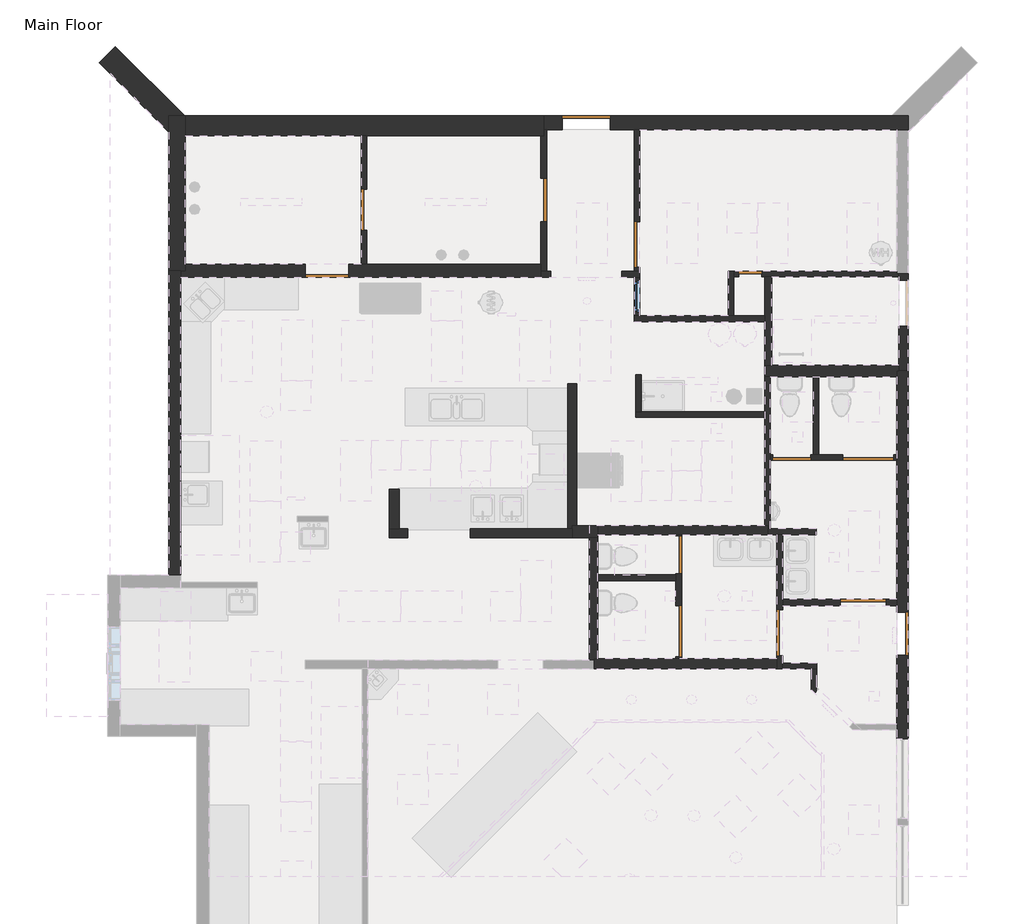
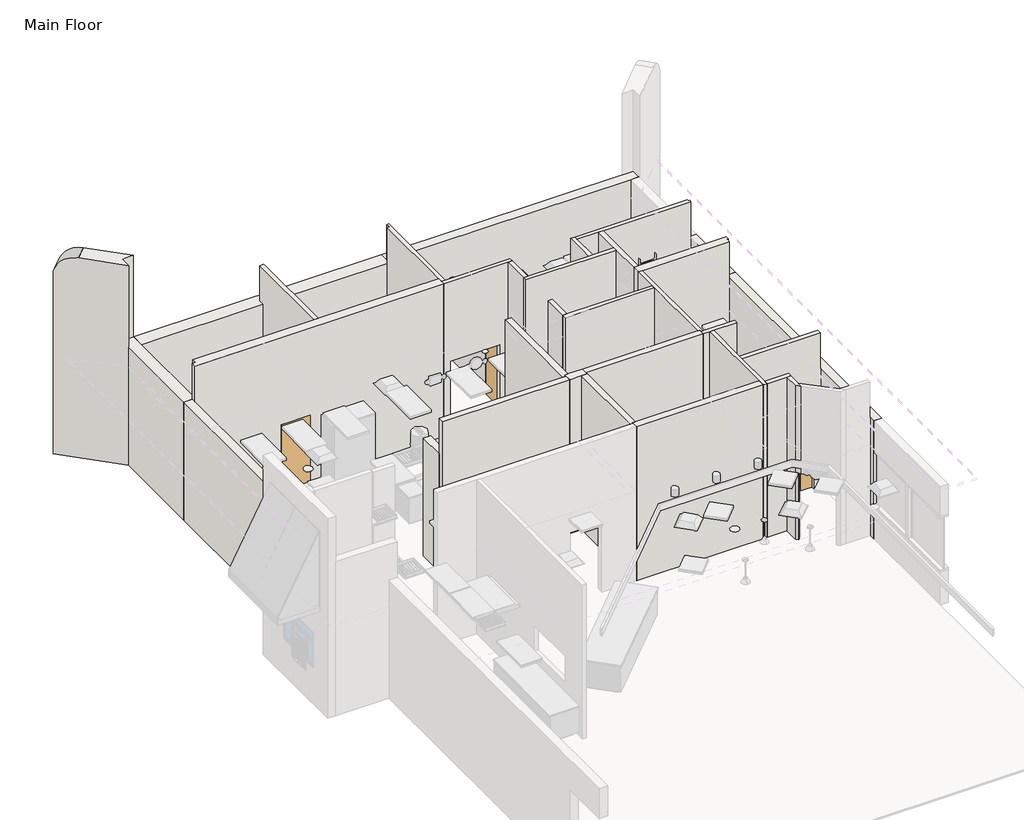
# One storey, part 3 of 6: 37 walls, 13 doors, 1 window.
"""IFC4 building model written with IfcOpenShell, lengths in millimetres."""

from ifc_helpers import new_model, si_unit, frame, origin, origin_with_axes, place, context, project, spatial, polyline, circle_curve, outline, extrude, faceted_brep, transform, mapped, element, save
from ifc_brep_helpers import plane_surface, cylinder_surface, advanced_brep
from components import door_06143b9a, door_8c30df6c, door_9f4ae598, door_f7e807fb, door_aa45f35f, door_f61abd0f, door_46b09886, door_9f601fca, door_848fc89d, door_b9824f6c, door_5effc919, door_386d591b, door_49ab4ca9, default_1_ebdee1d1

model = new_model("IFC4")

# Units and contexts
model_context = context("Model", 3, world=origin())
ifc_project = project(units=[si_unit("LENGTHUNIT", "METRE", prefix="MILLI")], contexts=[model_context])

# Site, building, storey
site = spatial("IfcSite", under=ifc_project)
building = spatial("IfcBuilding", under=site)
storey = spatial("IfcBuildingStorey", under=building, Name="Main Floor", Elevation=0.0)

# Doors
placement = place(None, origin())
door_shape = door_06143b9a(model_context)
element("IfcDoor", 1, ObjectType="Planitar - Single Door_Flush Panel : 1'-6\" x 6'-8\"", at=placement, inside=storey, context=model_context, shape_type="MappedRepresentation", body=[
    mapped(door_shape, transform((5523.5583864, 8632.6499204, 0.0), x_axis=(1.0, 0.0, 0.0), y_axis=(0.0, 1.0, 0.0), z_axis=(0.0, 0.0, 1.0))),
])
door_2_shape = door_8c30df6c(model_context)
element("IfcDoor", 2, ObjectType="Planitar - Single Door_Flush Panel : 2'-10\" x 6'-8\"", at=placement, inside=storey, context=model_context, shape_type="MappedRepresentation", body=[
    mapped(door_2_shape, transform((-2925.1166136, 8696.1499204, 0.0), x_axis=(-1.0, 0.0, 0.0), y_axis=(0.0, -1.0, 0.0), z_axis=(0.0, 0.0, 1.0))),
])
door_3_shape = door_9f4ae598(model_context)
element("IfcDoor", 3, ObjectType="Planitar - Single Door_Flush Panel : 2'-10\" x 6'-8\"", at=placement, inside=storey, context=model_context, shape_type="MappedRepresentation", body=[
    mapped(door_3_shape, transform((1399.2333864, 10105.8499204, 0.0), x_axis=(0.0, -1.0, 0.0), y_axis=(1.0, 0.0, 0.0), z_axis=(0.0, 0.0, 1.0))),
])
door_4_shape = door_f7e807fb(model_context)
element("IfcDoor", 4, ObjectType="Planitar - Single Door_Flush Panel : 2'-10\" x 6'-8\"", at=placement, inside=storey, context=model_context, shape_type="MappedRepresentation", body=[
    mapped(door_4_shape, transform((8562.0333864, 1447.6249204, 0.0), x_axis=(0.0, -1.0, 0.0), y_axis=(1.0, 0.0, 0.0), z_axis=(0.0, 0.0, 1.0))),
])
door_5_shape = door_aa45f35f(model_context)
element("IfcDoor", 5, ObjectType="Planitar - Single Door_Flush Panel : 2'-6\" x 6'-8\"", at=placement, inside=storey, context=model_context, shape_type="MappedRepresentation", body=[
    mapped(door_5_shape, transform((6352.2333864, 4968.6999204, 0.0), x_axis=(-1.0, 0.0, 0.0), y_axis=(0.0, -1.0, 0.0), z_axis=(0.0, 0.0, 1.0))),
])
door_6_shape = door_f61abd0f(model_context)
element("IfcDoor", 6, ObjectType="Planitar - Single Door_Flush Panel : 2'-6\" x 6'-8\" 45", at=placement, inside=storey, context=model_context, shape_type="MappedRepresentation", body=[
    mapped(door_6_shape, transform((4097.9833864, 3022.4249204, 0.0), x_axis=(0.0, 1.0, 0.0), y_axis=(-1.0, 0.0, 0.0), z_axis=(0.0, 0.0, 1.0))),
])
door_7_shape = door_46b09886(model_context)
element("IfcDoor", 7, ObjectType="Planitar - Single Door_Flush Panel : 2'-8\" x 6'-8\"", at=placement, inside=storey, context=model_context, shape_type="MappedRepresentation", body=[
    mapped(door_7_shape, transform((-2188.5166136, 9915.3499204, 0.0), x_axis=(0.0, 1.0, 0.0), y_axis=(-1.0, 0.0, 0.0), z_axis=(0.0, 0.0, 1.0))),
])
door_8_shape = door_9f601fca(model_context)
element("IfcDoor", 8, ObjectType="Planitar - Single Door_Flush Panel : 3'-0\" x 6'-8\"", at=placement, inside=storey, context=model_context, shape_type="MappedRepresentation", body=[
    mapped(door_8_shape, transform((7780.9833864, 2073.0999204, 0.0), x_axis=(1.0, 0.0, 0.0), y_axis=(0.0, 1.0, 0.0), z_axis=(0.0, 0.0, 1.0))),
])
door_9_shape = door_848fc89d(model_context)
element("IfcDoor", 9, ObjectType="Planitar - Single Door_Flush Panel : 3'-0\" x 6'-8\"", at=placement, inside=storey, context=model_context, shape_type="MappedRepresentation", body=[
    mapped(door_9_shape, transform((6110.9333864, 1469.8499204, 0.0), x_axis=(0.0, -1.0, 0.0), y_axis=(1.0, 0.0, 0.0), z_axis=(0.0, 0.0, 1.0))),
])
door_10_shape = door_b9824f6c(model_context)
element("IfcDoor", 10, ObjectType="Planitar - Single Door_Flush Panel : 3'-0\" x 6'-8\" 45", at=placement, inside=storey, context=model_context, shape_type="MappedRepresentation", body=[
    mapped(door_10_shape, transform((3259.7833864, 9220.0249204, 0.0), x_axis=(0.0, 1.0, 0.0), y_axis=(-1.0, 0.0, 0.0), z_axis=(0.0, 0.0, 1.0))),
])
door_11_shape = door_5effc919(model_context)
element("IfcDoor", 11, ObjectType="Planitar - Single Door_Flush Panel : 3'-2\" x 6'-8\"", at=placement, inside=storey, context=model_context, shape_type="MappedRepresentation", body=[
    mapped(door_11_shape, transform((2250.1333864, 11648.8999204, 0.0), x_axis=(-1.0, 0.0, 0.0), y_axis=(0.0, -1.0, 0.0), z_axis=(0.0, 0.0, 1.0))),
])
door_12_shape = door_386d591b(model_context)
element("IfcDoor", 12, ObjectType="Planitar - Single Door_Flush Panel : 3'-4\" x 6'-8\"", at=placement, inside=storey, context=model_context, shape_type="MappedRepresentation", body=[
    mapped(door_12_shape, transform((7882.5833864, 4968.6999204, 0.0), x_axis=(1.0, 0.0, 0.0), y_axis=(0.0, 1.0, 0.0), z_axis=(0.0, 0.0, 1.0))),
])
door_13_shape = door_49ab4ca9(model_context)
element("IfcDoor", 13, ObjectType="Planitar - Single Door_Flush Panel : 3'-4\" x 6'-8\" 45", at=placement, inside=storey, context=model_context, shape_type="MappedRepresentation", body=[
    mapped(door_13_shape, transform((4097.9833864, 1495.2499204, 0.0), x_axis=(0.0, -1.0, 0.0), y_axis=(1.0, 0.0, 0.0), z_axis=(0.0, 0.0, 1.0))),
])

# Walls
element("IfcWall", 14, ObjectType="Planitar - Generic 9 1/2\"", at=placement, inside=storey, context=model_context, shape_type="Brep", body=[
    faceted_brep([(-5846.1166136, 2619.1999204, 0.0), (-5846.1166136, 8569.1499204, 0.0), (-5846.1166136, 8696.1499204, 0.0), (-5846.1166136, 8696.1499204, 3606.8), (-5846.1166136, 2619.1999204, 3606.8), (-6087.4166136, 2619.1999204, 0.0), (-6087.4166136, 2619.1999204, 3606.8), (-6087.4166136, 8696.1499204, 3606.8), (-6087.4166136, 8696.1499204, 0.0), (-5966.7666136, 2619.1999204, 3606.8)], [[[0, 1, 2, 3, 4]], [[5, 6, 7, 8]], [[2, 1, 0, 5, 8]], [[3, 2, 8, 7]], [[4, 3, 7, 6, 9]], [[0, 4, 9, 6, 5]]]),
])
element("IfcWall", 15, ObjectType="Planitar - Generic 1' - 1\"", at=placement, inside=storey, context=model_context, shape_type="Brep", body=[
    faceted_brep([(-5757.2166136, 8696.1499204, 0.0), (-5757.2166136, 8823.1499204, 0.0), (-5757.2166136, 11394.8999204, 0.0), (-5757.2166136, 11788.5999204, 0.0), (-5757.2166136, 11788.5999204, 3606.8), (-5757.2166136, 11394.8999204, 3606.8), (-5757.2166136, 8696.1499204, 3606.8), (-6087.4166136, 8696.1499204, 0.0), (-6087.4166136, 8696.1499204, 3606.8), (-6087.4166136, 11788.5999204, 3606.8), (-6087.4166136, 11788.5999204, 0.0), (-6087.4166136, 11463.1113675, 0.0), (-5846.1166136, 8696.1499204, 0.0), (-5766.3267257, 11788.5999204, 0.0), (-5846.1166136, 8696.1499204, 3606.8)], [[[0, 1, 2, 3, 4, 5, 6]], [[7, 8, 9, 10, 11]], [[3, 2, 1, 0, 12, 7, 11, 10, 13]], [[6, 5, 4, 9, 8, 14]], [[0, 6, 14, 8, 7, 12]], [[4, 3, 13, 10, 9]]]),
])
element("IfcWall", 16, ObjectType="Planitar - Generic 1' - 3 1/2\"", at=placement, inside=storey, context=model_context, shape_type="Brep", body=[
    faceted_brep([(-5757.2166136, 11394.8999204, 0.0), (-2245.6666136, 11394.8999204, 0.0), (-2131.3666136, 11394.8999204, 0.0), (1342.0833864, 11394.8999204, 0.0), (1399.2333864, 11394.8999204, 0.0), (1399.2333864, 11394.8999204, 3606.8), (-2131.3666136, 11394.8999204, 3606.8), (-2245.6666136, 11394.8999204, 3606.8), (-5757.2166136, 11394.8999204, 3606.8), (-5757.2166136, 11788.5999204, 0.0), (-5757.2166136, 11788.5999204, 3606.8), (1399.2333864, 11788.5999204, 3606.8), (1399.2333864, 11788.5999204, 0.0), (1399.2333864, 11509.1999204, 0.0), (1399.2333864, 11509.1999204, 3606.8)], [[[0, 1, 2, 3, 4, 5, 6, 7, 8]], [[9, 10, 11, 12]], [[4, 3, 2, 1, 0, 9, 12, 13]], [[5, 4, 13, 12, 11, 14]], [[8, 7, 6, 5, 14, 11, 10]], [[0, 8, 10, 9]]]),
])
element("IfcWall", 17, ObjectType="Planitar - Generic 11\"", at=placement, inside=storey, context=model_context, shape_type="Brep", body=[
    faceted_brep([(1399.2333864, 11509.1999204, 0.0), (1456.3833864, 11509.1999204, 0.0), (1767.5333864, 11509.1999204, 0.0), (1767.5333864, 11509.1999204, 2032.0), (2732.7333864, 11509.1999204, 2032.0), (2732.7333864, 11509.1999204, 0.0), (3202.6333864, 11509.1999204, 0.0), (3316.9333864, 11509.1999204, 0.0), (8447.7333864, 11509.1999204, 0.0), (8676.3333864, 11509.1999204, 0.0), (8676.3333864, 11509.1999204, 3606.8), (8447.7333864, 11509.1999204, 3606.8), (1399.2333864, 11509.1999204, 3606.8), (1767.5333864, 11788.5999204, 2032.0), (1767.5333864, 11788.5999204, 0.0), (1399.2333864, 11788.5999204, 0.0), (1399.2333864, 11788.5999204, 3606.8), (8676.3333864, 11788.5999204, 3606.8), (8676.3333864, 11788.5999204, 0.0), (8353.0441661, 11788.5999204, 0.0), (2732.7333864, 11788.5999204, 0.0), (2732.7333864, 11788.5999204, 2032.0), (8676.3333864, 11547.2999204, 3606.8)], [[[0, 1, 2, 3, 4, 5, 6, 7, 8, 9, 10, 11, 12]], [[13, 14, 15, 16, 17, 18, 19, 20, 21]], [[15, 14, 2, 1, 0]], [[20, 19, 18, 9, 8, 7, 6, 5]], [[12, 11, 10, 22, 17, 16]], [[0, 12, 16, 15]], [[10, 9, 18, 17, 22]], [[3, 2, 14, 13]], [[4, 3, 13, 21]], [[5, 4, 21, 20]]]),
])
element("IfcWall", 18, ObjectType="Planitar - Generic 7\"", at=placement, inside=storey, context=model_context, shape_type="Brep", body=[
    faceted_brep([(-1686.8666136, 3362.1499204, 0.0), (-1315.3916136, 3362.1499204, 0.0), (-1315.3916136, 3362.1499204, 1371.6), (-70.7916136, 3362.1499204, 1371.6), (-70.7916136, 3362.1499204, 0.0), (1970.7333864, 3362.1499204, 0.0), (1970.7333864, 3362.1499204, 4699.0), (-1686.8666136, 3362.1499204, 4699.0), (-1315.3916136, 3539.9499204, 1371.6), (-1315.3916136, 3539.9499204, 0.0), (-1483.6666136, 3539.9499204, 0.0), (-1686.8666136, 3539.9499204, 0.0), (-1686.8666136, 3539.9499204, 3606.8), (-1686.8666136, 3539.9499204, 4699.0), (1881.8333864, 3539.9499204, 4699.0), (1970.7333864, 3539.9499204, 4699.0), (1970.7333864, 3539.9499204, 0.0), (1881.8333864, 3539.9499204, 0.0), (-70.7916136, 3539.9499204, 0.0), (-70.7916136, 3539.9499204, 1371.6)], [[[0, 1, 2, 3, 4, 5, 6, 7]], [[8, 9, 10, 11, 12, 13, 14, 15, 16, 17, 18, 19]], [[11, 10, 9, 1, 0]], [[18, 17, 16, 5, 4]], [[6, 5, 16, 15]], [[7, 6, 15, 14, 13]], [[0, 7, 13, 12, 11]], [[4, 3, 19, 18]], [[2, 1, 9, 8]], [[3, 2, 8, 19]]]),
])
element("IfcWall", 19, ObjectType="Planitar - Generic 8\"", at=placement, inside=storey, context=model_context, shape_type="SweptSolid", body=[
    extrude(outline(polyline([(-1483.6666136, 4333.6999204), (-1483.6666136, 3539.9499204), (-1686.8666136, 3539.9499204), (-1686.8666136, 4333.6999204), (-1483.6666136, 4333.6999204)])), origin_with_axes(), (0.0, 0.0, 1.0), 3606.8),
])
element("IfcWall", 20, ObjectType="Planitar - Generic 7\"", at=placement, inside=storey, context=model_context, shape_type="Brep", body=[
    faceted_brep([(2478.7333864, 3425.6499204, 0.0), (4040.8333864, 3425.6499204, 0.0), (4155.1333864, 3425.6499204, 0.0), (5869.6333864, 3425.6499204, 0.0), (5869.6333864, 3425.6499204, 4699.0), (2478.7333864, 3425.6499204, 4699.0), (2478.7333864, 3603.4499204, 0.0), (2478.7333864, 3603.4499204, 4699.0), (5812.4833864, 3603.4499204, 4699.0), (5869.6333864, 3603.4499204, 4699.0), (5869.6333864, 3603.4499204, 0.0), (5812.4833864, 3603.4499204, 0.0), (5869.6333864, 3539.9499204, 0.0), (5869.6333864, 3539.9499204, 4699.0)], [[[0, 1, 2, 3, 4, 5]], [[6, 7, 8, 9, 10, 11]], [[3, 2, 1, 0, 6, 11, 10, 12]], [[4, 3, 12, 10, 9, 13]], [[5, 4, 13, 9, 8, 7]], [[0, 5, 7, 6]]]),
])
element("IfcWall", 21, ObjectType="Planitar - Generic 4 1/2\"", at=placement, inside=storey, context=model_context, shape_type="Brep", body=[
    faceted_brep([(5869.6333864, 3425.6499204, 0.0), (6053.7833864, 3425.6499204, 0.0), (6168.0833864, 3425.6499204, 0.0), (6841.1833864, 3425.6499204, 0.0), (6841.1833864, 3425.6499204, 4699.0), (6168.0833864, 3425.6499204, 4699.0), (6053.7833864, 3425.6499204, 4699.0), (5869.6333864, 3425.6499204, 4699.0), (5869.6333864, 3539.9499204, 0.0), (5869.6333864, 3539.9499204, 4699.0), (5926.7833864, 3539.9499204, 4699.0), (6841.1833864, 3539.9499204, 4699.0), (6841.1833864, 3539.9499204, 0.0), (5926.7833864, 3539.9499204, 0.0)], [[[0, 1, 2, 3, 4, 5, 6, 7]], [[8, 9, 10, 11, 12, 13]], [[3, 2, 1, 0, 8, 13, 12]], [[4, 3, 12, 11]], [[7, 6, 5, 4, 11, 10, 9]], [[0, 7, 9, 8]]]),
])
element("IfcWall", 22, ObjectType="Planitar - Generic 4 1/2\"", at=placement, inside=storey, context=model_context, shape_type="Brep", body=[
    faceted_brep([(5926.7833864, 3539.9499204, 0.0), (5926.7833864, 4911.5499204, 0.0), (5926.7833864, 5025.8499204, 0.0), (5926.7833864, 6581.5999204, 0.0), (5926.7833864, 6581.5999204, 4699.0), (5926.7833864, 3539.9499204, 4699.0), (5812.4833864, 3603.4499204, 0.0), (5812.4833864, 3603.4499204, 4699.0), (5812.4833864, 5768.7999204, 4699.0), (5812.4833864, 5883.0999204, 4699.0), (5812.4833864, 6581.5999204, 4699.0), (5812.4833864, 6581.5999204, 0.0), (5812.4833864, 5883.0999204, 0.0), (5812.4833864, 5768.7999204, 0.0), (5869.6333864, 3539.9499204, 0.0), (5869.6333864, 3603.4499204, 0.0), (5869.6333864, 3603.4499204, 4699.0), (5869.6333864, 3539.9499204, 4699.0)], [[[0, 1, 2, 3, 4, 5]], [[6, 7, 8, 9, 10, 11, 12, 13]], [[3, 2, 1, 0, 14, 15, 6, 13, 12, 11]], [[5, 4, 10, 9, 8, 7, 16, 17]], [[0, 5, 17, 14]], [[17, 16, 15, 14]], [[16, 7, 6, 15]], [[4, 3, 11, 10]]]),
])
element("IfcWall", 23, ObjectType="Planitar - Generic 4 1/2\"", at=placement, inside=storey, context=model_context, shape_type="Brep", body=[
    faceted_brep([(5812.4833864, 5883.0999204, 0.0), (3348.6833864, 5883.0999204, 0.0), (3234.3833864, 5883.0999204, 0.0), (3234.3833864, 5883.0999204, 4699.0), (3348.6833864, 5883.0999204, 4699.0), (5812.4833864, 5883.0999204, 4699.0), (5812.4833864, 5768.7999204, 0.0), (5812.4833864, 5768.7999204, 4699.0), (3234.3833864, 5768.7999204, 4699.0), (3234.3833864, 5768.7999204, 0.0)], [[[0, 1, 2, 3, 4, 5]], [[6, 7, 8, 9]], [[2, 1, 0, 6, 9]], [[5, 4, 3, 8, 7]], [[0, 5, 7, 6]], [[3, 2, 9, 8]]]),
])
element("IfcWall", 24, ObjectType="Planitar - Generic 4 1/2\"", at=placement, inside=storey, context=model_context, shape_type="SweptSolid", body=[
    extrude(outline(polyline([(3348.6833864, 6619.6999204), (3348.6833864, 5883.0999204), (3234.3833864, 5883.0999204), (3234.3833864, 6619.6999204), (3348.6833864, 6619.6999204)])), origin_with_axes(), (0.0, 0.0, 1.0), 4699.0),
])
element("IfcWall", 25, ObjectType="Planitar - Generic 4 1/2\"", at=placement, inside=storey, context=model_context, shape_type="SweptSolid", body=[
    extrude(outline(polyline([(4040.8333864, 2511.2499204), (2478.7333864, 2511.2499204), (2478.7333864, 2625.5499204), (4040.8333864, 2625.5499204), (4040.8333864, 2511.2499204)])), origin_with_axes(), (0.0, 0.0, 1.0), 2082.8),
])
element("IfcWall", 26, ObjectType="Planitar - Generic 4 1/2\"", at=placement, inside=storey, context=model_context, shape_type="Brep", body=[
    faceted_brep([(4040.8333864, 987.2499204, 2032.0), (4040.8333864, 987.2499204, 0.0), (4040.8333864, 949.1499204, 0.0), (4040.8333864, 949.1499204, 2082.8), (4040.8333864, 2511.2499204, 2082.8), (4040.8333864, 2625.5499204, 2082.8), (4040.8333864, 3425.6499204, 2082.8), (4040.8333864, 3425.6499204, 0.0), (4040.8333864, 3403.4249204, 0.0), (4040.8333864, 3403.4249204, 2032.0), (4040.8333864, 2641.4249204, 2032.0), (4040.8333864, 2641.4249204, 0.0), (4040.8333864, 2625.5499204, 0.0), (4040.8333864, 2511.2499204, 0.0), (4040.8333864, 2003.2499204, 0.0), (4040.8333864, 2003.2499204, 2032.0), (4155.1333864, 949.1499204, 0.0), (4155.1333864, 987.2499204, 0.0), (4155.1333864, 987.2499204, 2032.0), (4155.1333864, 2003.2499204, 2032.0), (4155.1333864, 2003.2499204, 0.0), (4155.1333864, 2641.4249204, 0.0), (4155.1333864, 2641.4249204, 2032.0), (4155.1333864, 3403.4249204, 2032.0), (4155.1333864, 3403.4249204, 0.0), (4155.1333864, 3425.6499204, 0.0), (4155.1333864, 3425.6499204, 2082.8), (4155.1333864, 949.1499204, 2082.8)], [[[0, 1, 2, 3, 4, 5, 6, 7, 8, 9, 10, 11, 12, 13, 14, 15]], [[16, 17, 18, 19, 20, 21, 22, 23, 24, 25, 26, 27]], [[25, 24, 8, 7]], [[2, 1, 17, 16]], [[14, 13, 12, 11, 21, 20]], [[6, 5, 4, 3, 27, 26]], [[7, 6, 26, 25]], [[3, 2, 16, 27]], [[9, 8, 24, 23]], [[10, 9, 23, 22]], [[11, 10, 22, 21]], [[18, 17, 1, 0]], [[19, 18, 0, 15]], [[20, 19, 15, 14]]]),
])
element("IfcWall", 27, ObjectType="Planitar - Generic 4 1/2\"", at=placement, inside=storey, context=model_context, shape_type="Brep", body=[
    faceted_brep([(6053.7833864, 1012.6499204, 2032.0), (6053.7833864, 1012.6499204, 0.0), (6053.7833864, 949.1499204, 0.0), (6053.7833864, 745.9499204, 0.0), (6053.7833864, 745.9499204, 4699.0), (6053.7833864, 949.1499204, 4699.0), (6053.7833864, 3425.6499204, 4699.0), (6053.7833864, 3425.6499204, 0.0), (6053.7833864, 1927.0499204, 0.0), (6053.7833864, 1927.0499204, 2032.0), (6168.0833864, 745.9499204, 0.0), (6168.0833864, 860.2475204, 0.0), (6168.0833864, 1012.6499204, 0.0), (6168.0833864, 1012.6499204, 2032.0), (6168.0833864, 1927.0499204, 2032.0), (6168.0833864, 1927.0499204, 0.0), (6168.0833864, 2009.5999204, 0.0), (6168.0833864, 2136.5999204, 0.0), (6168.0833864, 3425.6499204, 0.0), (6168.0833864, 3425.6499204, 4699.0), (6168.0833864, 2136.5999204, 4699.0), (6168.0833864, 2009.5999204, 4699.0), (6168.0833864, 860.2475204, 4699.0), (6168.0833864, 745.9499204, 4699.0)], [[[0, 1, 2, 3, 4, 5, 6, 7, 8, 9]], [[10, 11, 12, 13, 14, 15, 16, 17, 18, 19, 20, 21, 22, 23]], [[8, 7, 18, 17, 16, 15]], [[3, 2, 1, 12, 11, 10]], [[6, 5, 4, 23, 22, 21, 20, 19]], [[7, 6, 19, 18]], [[4, 3, 10, 23]], [[13, 12, 1, 0]], [[14, 13, 0, 9]], [[15, 14, 9, 8]]]),
])
element("IfcWall", 28, ObjectType="Planitar - Generic 5\"", at=placement, inside=storey, context=model_context, shape_type="SweptSolid", body=[
    extrude(outline(polyline([(2032.0, 8238.1833864), (0.0, 8238.1833864), (0.0, 8447.7333864), (3606.8, 8447.7333864), (3606.8, 8435.0333864), (4699.0, 8435.0333864), (4699.0, 6168.0833864), (0.0, 6168.0833864), (0.0, 7323.7833864), (2032.0, 7323.7833864), (2032.0, 8238.1833864)])), frame((0.0, 2009.5999204, 0.0), z_axis=(0.0, 1.0, 0.0), x_axis=(0.0, 0.0, 1.0)), (0.0, 0.0, 1.0), 127.0),
])
element("IfcWall", 29, ObjectType="Planitar - Generic 4 1/2\"", at=placement, inside=storey, context=model_context, shape_type="Brep", body=[
    faceted_brep([(8390.5833864, 4911.5499204, 2032.0), (8390.5833864, 4911.5499204, 0.0), (8447.7333864, 4911.5499204, 0.0), (8447.7333864, 4911.5499204, 2082.8), (5926.7833864, 4911.5499204, 2082.8), (5926.7833864, 4911.5499204, 0.0), (5971.2333864, 4911.5499204, 0.0), (5971.2333864, 4911.5499204, 2032.0), (6733.2333864, 4911.5499204, 2032.0), (6733.2333864, 4911.5499204, 0.0), (7374.5833864, 4911.5499204, 0.0), (7374.5833864, 4911.5499204, 2032.0), (8447.7333864, 5025.8499204, 0.0), (8390.5833864, 5025.8499204, 0.0), (8390.5833864, 5025.8499204, 2032.0), (7374.5833864, 5025.8499204, 2032.0), (7374.5833864, 5025.8499204, 0.0), (6891.9833864, 5025.8499204, 0.0), (6777.6833864, 5025.8499204, 0.0), (6733.2333864, 5025.8499204, 0.0), (6733.2333864, 5025.8499204, 2032.0), (5971.2333864, 5025.8499204, 2032.0), (5971.2333864, 5025.8499204, 0.0), (5926.7833864, 5025.8499204, 0.0), (5926.7833864, 5025.8499204, 2082.8), (6777.6833864, 5025.8499204, 2082.8), (6891.9833864, 5025.8499204, 2082.8), (8447.7333864, 5025.8499204, 2082.8)], [[[0, 1, 2, 3, 4, 5, 6, 7, 8, 9, 10, 11]], [[12, 13, 14, 15, 16, 17, 18, 19, 20, 21, 22, 23, 24, 25, 26, 27]], [[23, 22, 6, 5]], [[10, 9, 19, 18, 17, 16]], [[2, 1, 13, 12]], [[4, 3, 27, 26, 25, 24]], [[3, 2, 12, 27]], [[5, 4, 24, 23]], [[7, 6, 22, 21]], [[8, 7, 21, 20]], [[9, 8, 20, 19]], [[14, 13, 1, 0]], [[15, 14, 0, 11]], [[16, 15, 11, 10]]]),
])
element("IfcWall", 30, ObjectType="Planitar - Generic 4 1/2\"", at=placement, inside=storey, context=model_context, shape_type="SweptSolid", body=[
    extrude(outline(polyline([(6777.6833864, 5025.8499204), (6777.6833864, 6581.5999204), (6891.9833864, 6581.5999204), (6891.9833864, 5025.8499204), (6777.6833864, 5025.8499204)])), origin_with_axes(), (0.0, 0.0, 1.0), 2082.8),
])
element("IfcWall", 31, ObjectType="Planitar - Generic 4 1/2\"", at=placement, inside=storey, context=model_context, shape_type="Brep", body=[
    faceted_brep([(3202.6333864, 7680.1499204, 0.0), (5812.4833864, 7680.1499204, 0.0), (5812.4833864, 7680.1499204, 4699.0), (3202.6333864, 7680.1499204, 4699.0), (3202.6333864, 7794.4499204, 0.0), (3202.6333864, 7794.4499204, 4699.0), (3316.9333864, 7794.4499204, 4699.0), (5082.2333864, 7794.4499204, 4699.0), (5196.5333864, 7794.4499204, 4699.0), (5812.4833864, 7794.4499204, 4699.0), (5812.4833864, 7794.4499204, 0.0), (5196.5333864, 7794.4499204, 0.0), (5082.2333864, 7794.4499204, 0.0), (3316.9333864, 7794.4499204, 0.0)], [[[0, 1, 2, 3]], [[4, 5, 6, 7, 8, 9, 10, 11, 12, 13]], [[1, 0, 4, 13, 12, 11, 10]], [[3, 2, 9, 8, 7, 6, 5]], [[0, 3, 5, 4]], [[2, 1, 10, 9]]]),
])
element("IfcWall", 32, ObjectType="Planitar - Generic 4 1/2\"", at=placement, inside=storey, context=model_context, shape_type="Brep", body=[
    faceted_brep([(5196.5333864, 7794.4499204, 0.0), (5196.5333864, 8575.4999204, 0.0), (5196.5333864, 8689.7999204, 0.0), (5196.5333864, 8689.7999204, 4699.0), (5196.5333864, 8575.4999204, 4699.0), (5196.5333864, 7794.4499204, 4699.0), (5082.2333864, 7794.4499204, 0.0), (5082.2333864, 7794.4499204, 4699.0), (5082.2333864, 8689.7999204, 4699.0), (5082.2333864, 8689.7999204, 0.0)], [[[0, 1, 2, 3, 4, 5]], [[6, 7, 8, 9]], [[2, 1, 0, 6, 9]], [[5, 4, 3, 8, 7]], [[0, 5, 7, 6]], [[3, 2, 9, 8]]]),
])
element("IfcWall", 33, ObjectType="Planitar - Generic 4 1/2\"", at=placement, inside=storey, context=model_context, shape_type="Brep", body=[
    faceted_brep([(5752.1583864, 8575.4999204, 2032.0), (5752.1583864, 8575.4999204, 0.0), (5812.4833864, 8575.4999204, 0.0), (5952.1833864, 8575.4999204, 0.0), (8485.8333864, 8575.4999204, 0.0), (8485.8333864, 8575.4999204, 4699.0), (5952.1833864, 8575.4999204, 4699.0), (5812.4833864, 8575.4999204, 4699.0), (5196.5333864, 8575.4999204, 4699.0), (5196.5333864, 8575.4999204, 0.0), (5294.9583864, 8575.4999204, 0.0), (5294.9583864, 8575.4999204, 2032.0), (8447.7333864, 8689.7999204, 0.0), (5752.1583864, 8689.7999204, 0.0), (5752.1583864, 8689.7999204, 2032.0), (5294.9583864, 8689.7999204, 2032.0), (5294.9583864, 8689.7999204, 0.0), (5196.5333864, 8689.7999204, 0.0), (5196.5333864, 8689.7999204, 4699.0), (8447.7333864, 8689.7999204, 4699.0), (8447.7333864, 8632.6499204, 0.0), (8485.8333864, 8632.6499204, 0.0), (8485.8333864, 8632.6499204, 4699.0), (8447.7333864, 8632.6499204, 4699.0), (8485.8333864, 8632.6499204, 3606.8), (8447.7333864, 8632.6499204, 3606.8)], [[[0, 1, 2, 3, 4, 5, 6, 7, 8, 9, 10, 11]], [[12, 13, 14, 15, 16, 17, 18, 19]], [[10, 9, 17, 16]], [[4, 3, 2, 1, 13, 12, 20, 21]], [[8, 7, 6, 5, 22, 23, 19, 18]], [[9, 8, 18, 17]], [[5, 4, 21, 24, 22]], [[14, 13, 1, 0]], [[15, 14, 0, 11]], [[16, 15, 11, 10]], [[21, 20, 25, 23, 22, 24]], [[20, 12, 19, 23, 25]]]),
])
element("IfcWall", 34, ObjectType="Planitar - Generic 4 1/2\"", at=placement, inside=storey, context=model_context, shape_type="SweptSolid", body=[
    extrude(outline(polyline([(11509.1999204, 0.0), (9677.2249204, 0.0), (9677.2249204, 2032.0), (8762.8249204, 2032.0), (8762.8249204, 0.0), (8683.4499204, 0.0), (8683.4499204, 2438.4), (11509.1999204, 2438.4), (11509.1999204, 0.0)])), frame((3202.6333864, 0.0, 0.0), z_axis=(1.0, 0.0, 0.0), x_axis=(0.0, 1.0, 0.0)), (0.0, 0.0, 1.0), 114.3),
])
element("IfcWall", 35, ObjectType="Planitar - Generic 4 1/2\"", at=placement, inside=storey, context=model_context, shape_type="Brep", body=[
    faceted_brep([(3316.9333864, 8683.4499204, 0.0), (2958.1583864, 8683.4499204, 0.0), (2958.1583864, 8683.4499204, 2260.6), (1535.7583864, 8683.4499204, 2260.6), (1535.7583864, 8683.4499204, 0.0), (1456.3833864, 8683.4499204, 0.0), (1342.0833864, 8683.4499204, 0.0), (1342.0833864, 8683.4499204, 4699.0), (1456.3833864, 8683.4499204, 4699.0), (3316.9333864, 8683.4499204, 4699.0), (2958.1583864, 8569.1499204, 2260.6), (2958.1583864, 8569.1499204, 0.0), (3316.9333864, 8569.1499204, 0.0), (3316.9333864, 8569.1499204, 4699.0), (1342.0833864, 8569.1499204, 4699.0), (1342.0833864, 8569.1499204, 0.0), (1535.7583864, 8569.1499204, 0.0), (1535.7583864, 8569.1499204, 2260.6)], [[[0, 1, 2, 3, 4, 5, 6, 7, 8, 9]], [[10, 11, 12, 13, 14, 15, 16, 17]], [[16, 15, 6, 5, 4]], [[12, 11, 1, 0]], [[9, 8, 7, 14, 13]], [[0, 9, 13, 12]], [[7, 6, 15, 14]], [[4, 3, 17, 16]], [[2, 1, 11, 10]], [[3, 2, 10, 17]]]),
])
element("IfcWall", 36, ObjectType="Planitar - Generic 4 1/2\"", at=placement, inside=storey, context=model_context, shape_type="Brep", body=[
    faceted_brep([(1342.0833864, 9674.0499204, 2032.0), (1342.0833864, 9674.0499204, 0.0), (1342.0833864, 8823.1499204, 0.0), (1342.0833864, 8683.4499204, 0.0), (1342.0833864, 8683.4499204, 4699.0), (1342.0833864, 8823.1499204, 4699.0), (1342.0833864, 11394.8999204, 4699.0), (1342.0833864, 11394.8999204, 0.0), (1342.0833864, 10537.6499204, 0.0), (1342.0833864, 10537.6499204, 2032.0), (1456.3833864, 8683.4499204, 0.0), (1456.3833864, 9674.0499204, 0.0), (1456.3833864, 9674.0499204, 2032.0), (1456.3833864, 10537.6499204, 2032.0), (1456.3833864, 10537.6499204, 0.0), (1456.3833864, 11509.1999204, 0.0), (1456.3833864, 11509.1999204, 4699.0), (1456.3833864, 8683.4499204, 4699.0), (1399.2333864, 11394.8999204, 0.0), (1399.2333864, 11509.1999204, 0.0), (1399.2333864, 11509.1999204, 4699.0), (1399.2333864, 11394.8999204, 4699.0), (1399.2333864, 11394.8999204, 3606.8), (1399.2333864, 11509.1999204, 3606.8)], [[[0, 1, 2, 3, 4, 5, 6, 7, 8, 9]], [[10, 11, 12, 13, 14, 15, 16, 17]], [[8, 7, 18, 19, 15, 14]], [[3, 2, 1, 11, 10]], [[6, 5, 4, 17, 16, 20, 21]], [[7, 6, 21, 22, 18]], [[21, 20, 23, 19, 18, 22]], [[20, 16, 15, 19, 23]], [[4, 3, 10, 17]], [[12, 11, 1, 0]], [[13, 12, 0, 9]], [[14, 13, 9, 8]]]),
])
element("IfcWall", 37, ObjectType="Planitar - Generic 4 1/2\"", at=placement, inside=storey, context=model_context, shape_type="SweptSolid", body=[
    extrude(outline(polyline([(11394.8999204, 0.0), (10321.7499204, 0.0), (10321.7499204, 2032.0), (9508.9499204, 2032.0), (9508.9499204, 0.0), (8823.1499204, 0.0), (8823.1499204, 4699.0), (11547.2999204, 4699.0), (11547.2999204, 3606.8), (11394.8999204, 3606.8), (11394.8999204, 0.0)])), frame((-2245.6666136, 0.0, 0.0), z_axis=(1.0, 0.0, 0.0), x_axis=(0.0, 1.0, 0.0)), (0.0, 0.0, 1.0), 114.3),
])
element("IfcWall", 38, ObjectType="Planitar - Generic 4 1/2\"", at=placement, inside=storey, context=model_context, shape_type="Brep", body=[
    faceted_brep([(6168.0833864, 745.9475204, 0.0), (6739.5833864, 745.9475204, 0.0), (6853.8833864, 745.9475204, 0.0), (6853.8833864, 745.9475204, 4699.0), (6739.5833864, 745.9475204, 4699.0), (6168.0833864, 745.9475204, 4699.0), (6168.0833864, 860.2475204, 0.0), (6168.0833864, 860.2475204, 4699.0), (6853.8833864, 860.2475204, 4699.0), (6853.8833864, 860.2475204, 0.0)], [[[0, 1, 2, 3, 4, 5]], [[6, 7, 8, 9]], [[2, 1, 0, 6, 9]], [[5, 4, 3, 8, 7]], [[3, 2, 9, 8]], [[0, 5, 7, 6]]]),
])
element("IfcWall", 39, ObjectType="Planitar - Generic 4 1/2\"", at=placement, inside=storey, context=model_context, shape_type="Brep", body=[
    faceted_brep([(6853.8833864, 745.9475204, 4699.0), (6853.8833864, 376.6026708, 4699.0), (6853.8833864, 218.1328404, 4699.0), (6853.8833864, 218.1328404, 2032.0), (6853.8833864, 308.7891147, 2032.0), (6853.8833864, 308.7891147, 0.0), (6853.8833864, 376.6026708, 0.0), (6853.8833864, 745.9475204, 0.0), (6739.5833864, 745.9475204, 0.0), (6739.5833864, 327.8971204, 0.0), (6739.5833864, 327.8971204, 4699.0), (6739.5833864, 745.9475204, 4699.0), (6808.5923829, 261.6265796, 0.0), (6808.5923829, 261.6265796, 2032.0)], [[[0, 1, 2, 3, 4, 5, 6, 7]], [[8, 9, 10, 11]], [[9, 8, 7, 6, 5, 12]], [[2, 1, 0, 11, 10]], [[0, 7, 8, 11]], [[2, 10, 9, 12, 13, 3]], [[4, 13, 12, 5]], [[13, 4, 3]]]),
])
element("IfcWall", 40, ObjectType="Planitar - Generic 8\"", at=placement, inside=storey, context=model_context, shape_type="Brep", body=[
    faceted_brep([(2396.1833864, 745.9499204, 0.0), (6053.7833864, 745.9499204, 0.0), (6053.7833864, 745.9499204, 4699.0), (2396.1833864, 745.9499204, 4699.0), (2396.1833864, 949.1499204, 0.0), (2396.1833864, 949.1499204, 4699.0), (2478.7333864, 949.1499204, 4699.0), (6053.7833864, 949.1499204, 4699.0), (6053.7833864, 949.1499204, 0.0), (4155.1333864, 949.1499204, 0.0), (4040.8333864, 949.1499204, 0.0), (2478.7333864, 949.1499204, 0.0), (2396.1833864, 923.7499204, 0.0), (2396.1833864, 923.7499204, 4699.0)], [[[0, 1, 2, 3]], [[4, 5, 6, 7, 8, 9, 10, 11]], [[1, 0, 12, 4, 11, 10, 9, 8]], [[3, 2, 7, 6, 5, 13]], [[0, 3, 13, 5, 4, 12]], [[2, 1, 8, 7]]]),
])
element("IfcWall", 41, ObjectType="Planitar - Generic 6 1/2\"", at=placement, inside=storey, context=model_context, shape_type="Brep", body=[
    faceted_brep([(2478.7333864, 949.1499204, 0.0), (2478.7333864, 2511.2499204, 0.0), (2478.7333864, 2625.5499204, 0.0), (2478.7333864, 3362.1499204, 0.0), (2478.7333864, 3362.1499204, 4699.0), (2478.7333864, 949.1499204, 4699.0), (2313.6333864, 923.7499204, 0.0), (2313.6333864, 923.7499204, 4699.0), (2313.6333864, 3362.1499204, 4699.0), (2313.6333864, 3362.1499204, 0.0), (2396.1833864, 949.1499204, 0.0), (2396.1833864, 923.7499204, 0.0), (2396.1833864, 923.7499204, 4699.0), (2396.1833864, 949.1499204, 4699.0)], [[[0, 1, 2, 3, 4, 5]], [[6, 7, 8, 9]], [[3, 2, 1, 0, 10, 11, 6, 9]], [[5, 4, 8, 7, 12, 13]], [[0, 5, 13, 10]], [[13, 12, 11, 10]], [[12, 7, 6, 11]], [[4, 3, 9, 8]]]),
])
element("IfcWall", 42, ObjectType="Planitar - Generic 9 1/2\"", at=placement, inside=storey, context=model_context, shape_type="Brep", body=[
    faceted_brep([(2478.7333864, 3603.4499204, 0.0), (2059.6333864, 3603.4499204, 0.0), (1970.7333864, 3603.4499204, 0.0), (1970.7333864, 3603.4499204, 4699.0), (2059.6333864, 3603.4499204, 4699.0), (2478.7333864, 3603.4499204, 4699.0), (2478.7333864, 3362.1499204, 0.0), (2478.7333864, 3362.1499204, 4699.0), (2313.6333864, 3362.1499204, 4699.0), (1970.7333864, 3362.1499204, 4699.0), (1970.7333864, 3362.1499204, 0.0), (2313.6333864, 3362.1499204, 0.0), (2478.7333864, 3425.6499204, 0.0), (1970.7333864, 3539.9499204, 0.0), (1970.7333864, 3539.9499204, 4699.0), (2478.7333864, 3425.6499204, 4699.0)], [[[0, 1, 2, 3, 4, 5]], [[6, 7, 8, 9, 10, 11]], [[2, 1, 0, 12, 6, 11, 10, 13]], [[3, 2, 13, 10, 9, 14]], [[5, 4, 3, 14, 9, 8, 7, 15]], [[0, 5, 15, 7, 6, 12]]]),
])
element("IfcWall", 43, ObjectType="Planitar - Generic 7\"", at=placement, inside=storey, context=model_context, shape_type="SweptSolid", body=[
    extrude(outline(polyline([(2059.6333864, 6435.5499204), (2059.6333864, 3603.4499204), (1970.7333864, 3603.4499204), (1970.7333864, 3539.9499204), (1881.8333864, 3539.9499204), (1881.8333864, 6435.5499204), (2059.6333864, 6435.5499204)])), origin_with_axes(), (0.0, 0.0, 1.0), 4699.0),
])
element("IfcWall", 44, ObjectType="Planitar - Generic 10\"", at=placement, inside=storey, context=model_context, shape_type="Brep", body=[
    faceted_brep([(-5846.1166136, 8569.1499204, 0.0), (-3356.9166136, 8569.1499204, 0.0), (-3356.9166136, 8569.1499204, 2032.0), (-2493.3166136, 8569.1499204, 2032.0), (-2493.3166136, 8569.1499204, 0.0), (1342.0833864, 8569.1499204, 0.0), (1342.0833864, 8569.1499204, 4699.0), (-5846.1166136, 8569.1499204, 4699.0), (-3356.9166136, 8823.1499204, 2032.0), (-3356.9166136, 8823.1499204, 0.0), (-5757.2166136, 8823.1499204, 0.0), (-5757.2166136, 8823.1499204, 4699.0), (-2245.6666136, 8823.1499204, 4699.0), (-2131.3666136, 8823.1499204, 4699.0), (1342.0833864, 8823.1499204, 4699.0), (1342.0833864, 8823.1499204, 0.0), (-2131.3666136, 8823.1499204, 0.0), (-2245.6666136, 8823.1499204, 0.0), (-2493.3166136, 8823.1499204, 0.0), (-2493.3166136, 8823.1499204, 2032.0), (-5846.1166136, 8696.1499204, 0.0), (-5757.2166136, 8696.1499204, 0.0), (1342.0833864, 8683.4499204, 0.0), (1342.0833864, 8683.4499204, 4699.0), (-5757.2166136, 8696.1499204, 4699.0), (-5846.1166136, 8696.1499204, 4699.0), (-5846.1166136, 8696.1499204, 3606.8), (-5757.2166136, 8696.1499204, 3606.8)], [[[0, 1, 2, 3, 4, 5, 6, 7]], [[8, 9, 10, 11, 12, 13, 14, 15, 16, 17, 18, 19]], [[10, 9, 1, 0, 20, 21]], [[18, 17, 16, 15, 22, 5, 4]], [[7, 6, 23, 14, 13, 12, 11, 24, 25]], [[0, 7, 25, 26, 20]], [[25, 24, 27, 21, 20, 26]], [[24, 11, 10, 21, 27]], [[6, 5, 22, 15, 14, 23]], [[2, 1, 9, 8]], [[3, 2, 8, 19]], [[4, 3, 19, 18]]]),
])
element("IfcWall", 45, ObjectType="Planitar - Generic 9\"", at=placement, inside=storey, context=model_context, shape_type="Brep", body=[
    faceted_brep([(5812.4833864, 6581.5999204, 0.0), (5926.7833864, 6581.5999204, 0.0), (6777.6833864, 6581.5999204, 0.0), (6891.9833864, 6581.5999204, 0.0), (8447.7333864, 6581.5999204, 0.0), (8447.7333864, 6581.5999204, 4699.0), (5926.7833864, 6581.5999204, 4699.0), (5812.4833864, 6581.5999204, 4699.0), (5812.4833864, 6810.1999204, 0.0), (5812.4833864, 6810.1999204, 4699.0), (5952.1833864, 6810.1999204, 4699.0), (8485.8333864, 6810.1999204, 4699.0), (8485.8333864, 6810.1999204, 0.0), (5952.1833864, 6810.1999204, 0.0), (8485.8333864, 6695.8999204, 0.0), (8447.7333864, 6695.8999204, 0.0), (8447.7333864, 6695.8999204, 4699.0), (8485.8333864, 6695.8999204, 4699.0), (8447.7333864, 6695.8999204, 3606.8), (8485.8333864, 6695.8999204, 3606.8)], [[[0, 1, 2, 3, 4, 5, 6, 7]], [[8, 9, 10, 11, 12, 13]], [[4, 3, 2, 1, 0, 8, 13, 12, 14, 15]], [[7, 6, 5, 16, 17, 11, 10, 9]], [[5, 4, 15, 18, 16]], [[0, 7, 9, 8]], [[15, 14, 19, 17, 16, 18]], [[14, 12, 11, 17, 19]]]),
])
element("IfcWall", 46, ObjectType="Planitar - Generic 5 1/2\"", at=placement, inside=storey, context=model_context, shape_type="Brep", body=[
    faceted_brep([(5812.4833864, 8575.4999204, 0.0), (5812.4833864, 7794.4499204, 0.0), (5812.4833864, 7680.1499204, 0.0), (5812.4833864, 6810.1999204, 0.0), (5812.4833864, 6810.1999204, 4699.0), (5812.4833864, 7680.1499204, 4699.0), (5812.4833864, 7794.4499204, 4699.0), (5812.4833864, 8575.4999204, 4699.0), (5952.1833864, 8575.4999204, 0.0), (5952.1833864, 8575.4999204, 4699.0), (5952.1833864, 6810.1999204, 4699.0), (5952.1833864, 6810.1999204, 0.0)], [[[0, 1, 2, 3, 4, 5, 6, 7]], [[8, 9, 10, 11]], [[3, 2, 1, 0, 8, 11]], [[7, 6, 5, 4, 10, 9]], [[4, 3, 11, 10]], [[0, 7, 9, 8]]]),
])
element("IfcWall", 47, ObjectType="Planitar - Generic 9\"", at=placement, inside=storey, context=model_context, shape_type="Brep", body=[
    faceted_brep([(8447.7333864, 1015.8249204, 2032.0), (8447.7333864, 1015.8249204, 0.0), (8447.7333864, -358.9500796, 0.0), (8447.7333864, -473.2500796, 0.0), (8447.7333864, -644.7000796, 0.0), (8447.7333864, -644.7000796, 1016.0), (8447.7333864, -644.7000796, 2692.4), (8447.7333864, -644.7000796, 3606.8), (8447.7333864, -473.2500796, 3606.8), (8447.7333864, -358.9500796, 3606.8), (8447.7333864, 2009.5999204, 3606.8), (8447.7333864, 2136.5999204, 3606.8), (8447.7333864, 6695.8999204, 3606.8), (8447.7333864, 6695.8999204, 0.0), (8447.7333864, 6581.5999204, 0.0), (8447.7333864, 5025.8499204, 0.0), (8447.7333864, 4911.5499204, 0.0), (8447.7333864, 2136.5999204, 0.0), (8447.7333864, 2009.5999204, 0.0), (8447.7333864, 1879.4249204, 0.0), (8447.7333864, 1879.4249204, 2032.0), (8676.3333864, -644.7000796, 0.0), (8676.3333864, 1015.8249204, 0.0), (8676.3333864, 1015.8249204, 2032.0), (8676.3333864, 1879.4249204, 2032.0), (8676.3333864, 1879.4249204, 0.0), (8676.3333864, 6695.8999204, 0.0), (8676.3333864, 6695.8999204, 3606.8), (8676.3333864, -644.7000796, 3606.8), (8485.8333864, 6695.8999204, 0.0), (8485.8333864, 6695.8999204, 3606.8)], [[[0, 1, 2, 3, 4, 5, 6, 7, 8, 9, 10, 11, 12, 13, 14, 15, 16, 17, 18, 19, 20]], [[21, 22, 23, 24, 25, 26, 27, 28]], [[19, 18, 17, 16, 15, 14, 13, 29, 26, 25]], [[4, 3, 2, 1, 22, 21]], [[12, 11, 10, 9, 8, 7, 28, 27, 30]], [[13, 12, 30, 27, 26, 29]], [[23, 22, 1, 0]], [[24, 23, 0, 20]], [[25, 24, 20, 19]], [[4, 21, 28, 7, 6, 5]]]),
])
element("IfcWall", 48, ObjectType="Planitar - Generic 7 1/2\"", at=placement, inside=storey, context=model_context, shape_type="Brep", body=[
    faceted_brep([(8485.8333864, 8632.6499204, 0.0), (8485.8333864, 8575.4999204, 0.0), (8485.8333864, 8505.6499204, 0.0), (8485.8333864, 8505.6499204, 2082.8), (8485.8333864, 7591.2499204, 2082.8), (8485.8333864, 7591.2499204, 0.0), (8485.8333864, 6810.1999204, 0.0), (8485.8333864, 6695.8999204, 0.0), (8485.8333864, 6695.8999204, 3606.8), (8485.8333864, 8632.6499204, 3606.8), (8676.3333864, 8505.6499204, 2082.8), (8676.3333864, 8505.6499204, 0.0), (8676.3333864, 8632.6499204, 0.0), (8676.3333864, 8632.6499204, 3606.8), (8676.3333864, 6695.8999204, 3606.8), (8676.3333864, 6695.8999204, 0.0), (8676.3333864, 7591.2499204, 0.0), (8676.3333864, 7591.2499204, 2082.8)], [[[0, 1, 2, 3, 4, 5, 6, 7, 8, 9]], [[10, 11, 12, 13, 14, 15, 16, 17]], [[16, 15, 7, 6, 5]], [[12, 11, 2, 1, 0]], [[8, 7, 15, 14]], [[9, 8, 14, 13]], [[0, 9, 13, 12]], [[5, 4, 17, 16]], [[4, 3, 10, 17]], [[3, 2, 11, 10]]]),
])
element("IfcWall", 49, ObjectType="Planitar - Generic 1' - 6\"", at=placement, inside=storey, context=model_context, shape_type="AdvancedBrep", body=[
    advanced_brep(
    [(-5766.3267257, 11788.5999204, 0.0), (-7149.2861684, 13171.559363, 0.0), (-7149.2861684, 13171.559363, 5435.6), (-6682.3128501, 12704.5860447, 6096.0), (-5766.3267257, 11788.5999204, 6096.0), (-7472.5753887, 12848.2701427, 0.0), (-6087.4166136, 11463.1113675, 0.0), (-6087.4166136, 11463.1113675, 6096.0), (-7005.6020704, 12381.2968244, 6096.0), (-7472.5753887, 12848.2701427, 5435.6), (-5846.1166136, 11788.5999204, 6096.0), (-6087.4166136, 11788.5999204, 6096.0), (-6087.4166136, 11788.5999204, 3606.8), (-6087.4166136, 11788.5999204, 0.0)],
    [
        (0, 1),
        (1, 2),
        (2, 3, circle_curve(frame((-6682.3128501, 12704.5860447, 5435.6), z_axis=(0.7071067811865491, 0.707106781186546, 0.0), x_axis=(0.707106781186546, -0.7071067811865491, 0.0)), 660.4)),
        (3, 4),
        (4, 0),
        (5, 6),
        (6, 7),
        (7, 8),
        (8, 9, circle_curve(frame((-7005.6020704, 12381.2968244, 5435.6), z_axis=(-0.7071067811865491, -0.707106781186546, 0.0), x_axis=(0.707106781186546, -0.7071067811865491, 0.0)), 660.4)),
        (9, 5),
        (4, 10),
        (10, 11),
        (11, 12),
        (12, 13),
        (13, 0),
        (13, 6),
        (5, 1),
        (9, 2),
        (3, 8),
        (7, 11),
    ],
    [
        plane_surface(frame((-5731.1213359, 11753.3945306, 0.0), z_axis=(0.707106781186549, 0.707106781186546, 0.0), x_axis=(-0.707106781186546, 0.707106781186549, 0.0))),
        plane_surface(frame((-6054.4105562, 11430.1053102, 0.0), z_axis=(-0.707106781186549, -0.707106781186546, 0.0), x_axis=(0.707106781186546, -0.707106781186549, 0.0))),
        plane_surface(frame((1237.3083864, 11788.5999204, -304.8), z_axis=(0.0, -1.0, 0.0), x_axis=(1.0, 0.0, 0.0))),
        plane_surface(frame((-5731.1213359, 11753.3945306, 0.0), z_axis=(0.0, 0.0, -1.0), x_axis=(-0.7071067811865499, -0.7071067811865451, 0.0))),
        plane_surface(frame((-7149.2861684, 13171.559363, 0.0), z_axis=(-0.7071067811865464, 0.7071067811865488, 0.0), x_axis=(-0.7071067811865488, -0.7071067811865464, 0.0))),
        plane_surface(frame((-6682.3128501, 12704.5860447, 6096.0), z_axis=(0.0, 0.0, 1.0), x_axis=(-0.7071067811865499, -0.7071067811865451, 0.0))),
        plane_surface(frame((-6087.4166136, 7105.4749204, -304.8), z_axis=(1.0, 0.0, 0.0), x_axis=(0.0, 1.0, 0.0))),
        cylinder_surface(frame((-7005.6020704, 12381.2968244, 5435.6), z_axis=(0.7071067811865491, 0.707106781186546, 0.0), x_axis=(0.707106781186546, -0.7071067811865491, 0.0)), 660.4),
    ],
    [
        (0, [[1, 2, 3, 4, 5]]),
        (1, [[6, 7, 8, 9, 10]]),
        (2, [[-5, 11, 12, 13, 14, 15]]),
        (3, [[-1, -15, 16, -6, 17]]),
        (4, [[-2, -17, -10, 18]]),
        (5, [[-4, 19, -8, 20, -12, -11]]),
        (6, [[-7, -16, -14, -13, -20]]),
        (7, [[-3, -18, -9, -19]]),
    ],
),
])
element("IfcWall", 50, ObjectType="Planitar - Generic 4 1/2\"", at=placement, inside=storey, context=model_context, shape_type="SweptSolid", body=[
    extrude(outline(polyline([(8569.1499204, 0.0), (7794.4499204, 0.0), (7794.4499204, 4699.0), (8569.1499204, 4699.0), (8569.1499204, 0.0)]), holes=[polyline([(7876.9999204, 965.2), (8486.5999204, 965.2), (8486.5999204, 2032.0), (7876.9999204, 2032.0), (7876.9999204, 965.2)])]), frame((3202.6333864, 0.0, 0.0), z_axis=(1.0, 0.0, 0.0), x_axis=(0.0, 1.0, 0.0)), (0.0, 0.0, 1.0), 114.3),
])

# Window
default_1_shape = default_1_ebdee1d1(model_context)
element("IfcWindow", 51, ObjectType="Planitar-Fixed : Default 1", at=placement, inside=storey, context=model_context, shape_type="MappedRepresentation", body=[
    mapped(default_1_shape, transform((3272.7833864, 8181.7999204, 50.8), x_axis=(0.0, 1.0, 0.0), y_axis=(-1.0, 0.0, 0.0), z_axis=(0.0, 0.0, 1.0))),
])

save(model, "model.ifc")
